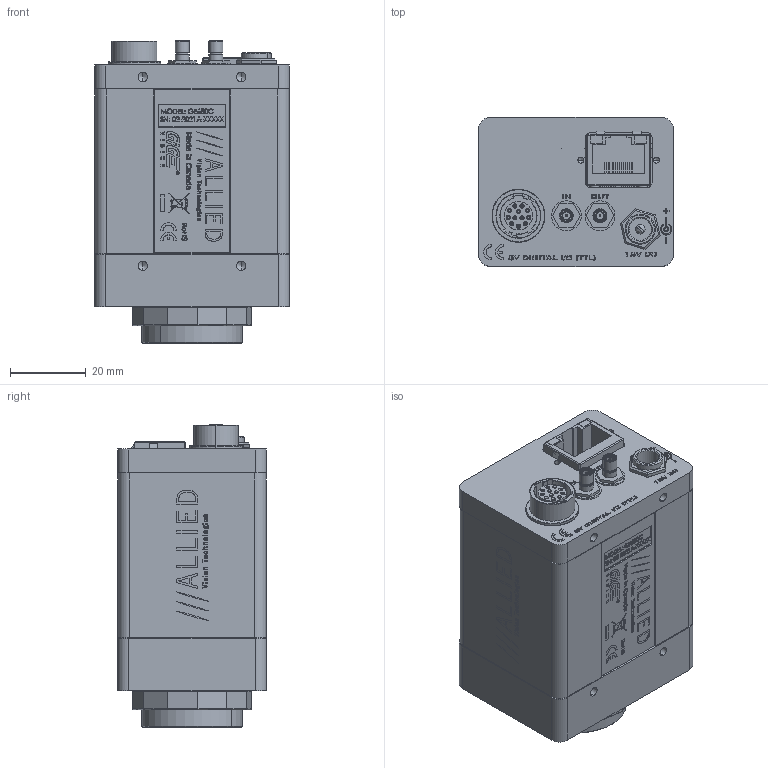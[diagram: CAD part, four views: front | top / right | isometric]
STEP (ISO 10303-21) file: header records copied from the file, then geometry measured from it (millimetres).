
FILE_DESCRIPTION (( 'STEP AP214' ), '1' );
FILE_NAME ('GE680C.STEP', '2013-07-31T21:09:42', ( '' ), ( '' ), 'SwSTEP 2.0', 'SolidWorks 2013', '' );
FILE_SCHEMA (( 'AUTOMOTIVE_DESIGN' ));
Length unit declared in the file: millimetre
Products named in the file (38): 100137A - GE CAMERA BACK ASSEMBLY - for GE680; 140015-screw pan head phillips 4-40 x 0.1875; GE680C; 100051B - GE BACKPLATE ASSY; 140008-washer spring lock #4; 260010-HIROSE HR10A-10R-12SB; 740046A-A GE680C LABEL PRINT; 260014-SWITCHCRAFT PC712A; 110036B GE COVER EXTRUDED SHORT WITH LOGO_Finished; 100000AA-CV SMB GROUNDING ASSEMBLY; 100087A - GE680C FRONT ASSY; 270006-JUMPER WIRE MODIFIED; 110049AA-GE-CCD DUST SHIELD GASKET SMALL; 140001-AMPHENOL 903-10409-1; 260010-HIROSE HR10A-10R-12SB WASHER; 110031A-B EC-CCD LOCKING RING; 260010-HIROSE HR10A-10R-12SB NUT; 110034A GE FRONT PLATE; 110033B-C GE BACK PLATE; 110003AC-CV CMOUNT RING; 140000-AMPHENOL 903-10408-1; 100097A-IR FILTER ASSEMBLY 0.75 INCH; 140034-SWITCHCRAFT P10149 WITH WIRE; 110054AB-IR FILTER SUPPORT; 270006-JUMPER WIRE 18MM LONG; 440002-IR CUT FILTER 22MM DIA; 140034-SWITCHCRAFT P10149; 200034A-GE680C SENSOR PCB ASSY W SENSOR; 140002-KEYSTONE 349; 220085-KODAK KAI-0340DCM; 260009-AMPHENOL 903-406J-51R; KODAK KAI-0340D BODY; 260014-SWITCHCRAFT PC712A NUT; KODAK KAI-0340D WINDOW; 200031B-A GE INTERFACE PCB ASSY; 740031B-GE SERIES LABEL; 140007-screw socket head cap #4-40x2; 260029 BELFUSE 0826-1C1T-23
Assembly tree (51 placements, depth 5):
  GE680C
    140007-screw socket head cap #4-40x2  x4
    100087A - GE680C FRONT ASSY
      200034A-GE680C SENSOR PCB ASSY W SENSOR
        220085-KODAK KAI-0340DCM
          KODAK KAI-0340D WINDOW
          KODAK KAI-0340D BODY
      100097A-IR FILTER ASSEMBLY 0.75 INCH
        440002-IR CUT FILTER 22MM DIA
        110054AB-IR FILTER SUPPORT
      110003AC-CV CMOUNT RING
      110034A GE FRONT PLATE
      110031A-B EC-CCD LOCKING RING
      110049AA-GE-CCD DUST SHIELD GASKET SMALL
    110036B GE COVER EXTRUDED SHORT WITH LOGO_Finished
    740046A-A GE680C LABEL PRINT
    140008-washer spring lock #4  x4
    100137A - GE CAMERA BACK ASSEMBLY - for GE680
      140008-washer spring lock #4  x2
      140015-screw pan head phillips 4-40 x 0.1875
      200031B-A GE INTERFACE PCB ASSY
        260029 BELFUSE 0826-1C1T-23
      100051B - GE BACKPLATE ASSY
        260014-SWITCHCRAFT PC712A NUT
        260009-AMPHENOL 903-406J-51R  x2
        140002-KEYSTONE 349  x4
        140034-SWITCHCRAFT P10149 WITH WIRE
          140034-SWITCHCRAFT P10149
          270006-JUMPER WIRE 18MM LONG
        140000-AMPHENOL 903-10408-1  x2
        110033B-C GE BACK PLATE
        260010-HIROSE HR10A-10R-12SB NUT
        260010-HIROSE HR10A-10R-12SB WASHER
        100000AA-CV SMB GROUNDING ASSEMBLY  x2
          140001-AMPHENOL 903-10409-1
          270006-JUMPER WIRE MODIFIED
        260014-SWITCHCRAFT PC712A
        260010-HIROSE HR10A-10R-12SB
    740031B-GE SERIES LABEL
Bounding box: 51.56 x 39.37 x 80.09 mm (x, y, z)
Volume: 49857.2 mm3; surface area: 67621.3 mm2
Topology: 74 solids, 74 shells, 3948 faces, 10074 edges, 6565 vertices
Faces by surface type: plane 2220, bspline 902, cylinder 582, cone 244
Entity records: 186905 total; most frequent: CARTESIAN_POINT 58826, ORIENTED_EDGE 19018, DIRECTION 14831, EDGE_CURVE 9509, VECTOR 6487, LINE 6487, VERTEX_POINT 6223, AXIS2_PLACEMENT_3D 4172
